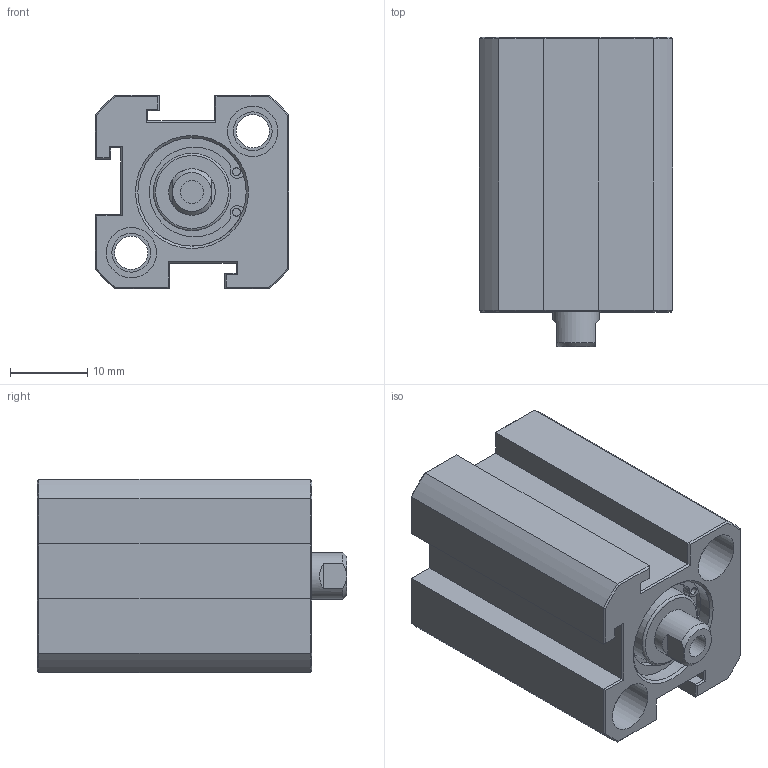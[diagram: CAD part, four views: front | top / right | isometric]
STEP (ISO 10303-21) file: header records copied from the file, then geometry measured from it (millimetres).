
FILE_DESCRIPTION(/* description */ (''),/* implementation_level */ '2;1');
FILE_NAME(/* name */ 'AJC-SDM12X5N',/* time_stamp */ '2019-07-05T10:04:09+08:00',/* author */ ('JEFF HUANG'),/* organization */ ('TAIWAN AMAC CLAMP INDUSTRIAL CO., LTD.'),/* preprocessor_version */ 'ST-DEVELOPER v16.7',/* originating_system */ 'DEX',/* authorisation */ $);
FILE_SCHEMA (('AUTOMOTIVE_DESIGN {1 0 10303 214 3 1 1}'));
Length unit declared in the file: millimetre
Products named in the file (1): AJC-SDM12X5N
Bounding box: 25 x 40 x 25 mm (x, y, z)
Volume: 16978.3 mm3; surface area: 7191.4 mm2
Topology: 1 solids, 1 shells, 152 faces, 328 edges, 198 vertices
Faces by surface type: plane 100, cylinder 38, cone 12, torus 2
Full cylindrical faces by diameter (mm): 1 x4, 3 x1, 4.3 x2, 5 x6, 6 x1, 6.5 x4, 10 x2, 14 x2
Entity records: 5010 total; most frequent: CARTESIAN_POINT 707, DIRECTION 680, ORIENTED_EDGE 598, EDGE_CURVE 299, AXIS2_PLACEMENT_3D 248, EDGE_LOOP 202, FACE_BOUND 202, VERTEX_POINT 195
